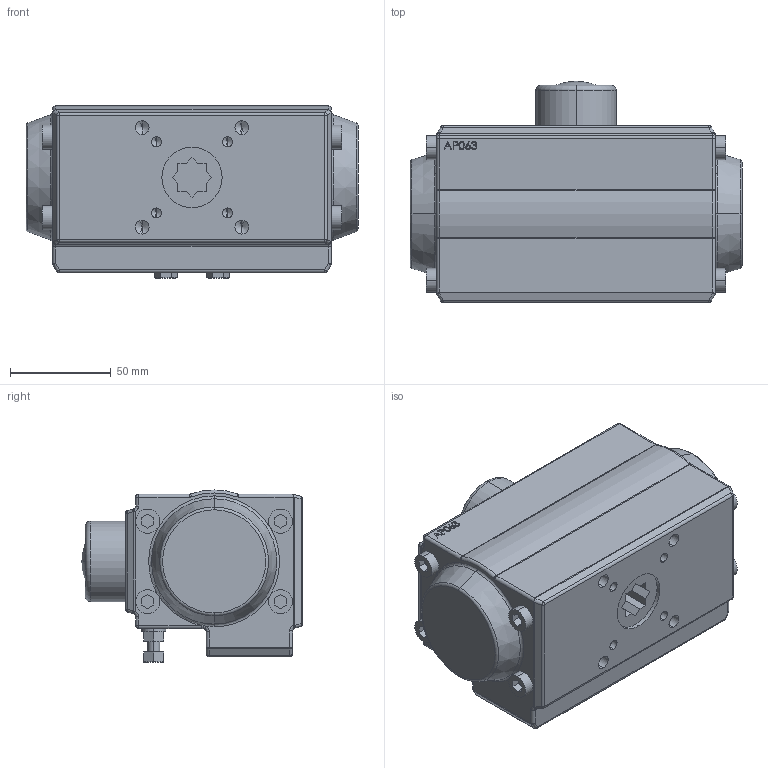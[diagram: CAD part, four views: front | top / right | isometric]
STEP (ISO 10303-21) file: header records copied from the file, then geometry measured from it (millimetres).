
FILE_DESCRIPTION (( 'STEP AP203' ), '1' );
FILE_NAME ('AP063.STEP', '2020-04-08T11:40:41', ( '' ), ( '' ), 'SwSTEP 2.0', 'SolidWorks 2017', '' );
FILE_SCHEMA (( 'CONFIG_CONTROL_DESIGN' ));
Length unit declared in the file: millimetre
Products named in the file (1): AP063
Bounding box: 165 x 110 x 85.53 mm (x, y, z)
Volume: 978918.2 mm3; surface area: 71922 mm2
Topology: 1 solids, 1 shells, 493 faces, 1186 edges, 701 vertices
Faces by surface type: plane 198, cylinder 118, cone 68, bspline 57, sphere 28, torus 24
Entity records: 16781 total; most frequent: CARTESIAN_POINT 5854, ORIENTED_EDGE 2264, DIRECTION 2158, EDGE_CURVE 1132, AXIS2_PLACEMENT_3D 761, VERTEX_POINT 701, VECTOR 636, LINE 636
